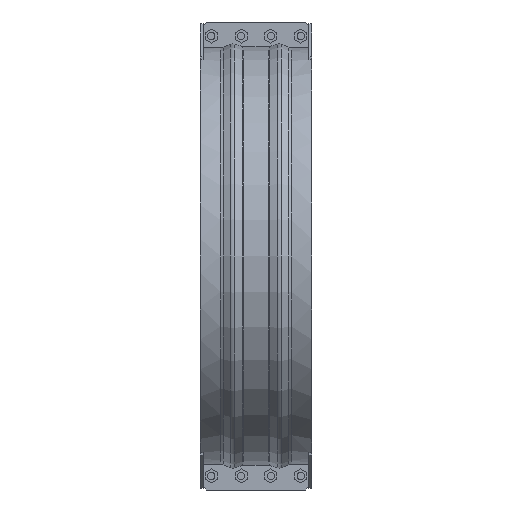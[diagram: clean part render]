
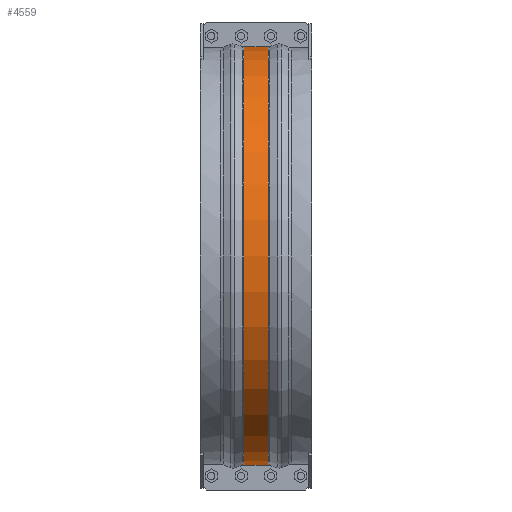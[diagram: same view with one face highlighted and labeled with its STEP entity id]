
A CAD part, front view. The second image highlights one B-rep face of the part: STEP entity #4559.
In plain terms, the highlighted cylindrical face has radius 701.977 mm (diameter 1403.95 mm), a partial arc.
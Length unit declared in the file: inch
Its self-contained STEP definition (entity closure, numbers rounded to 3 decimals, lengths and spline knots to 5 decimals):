
#414=FACE_OUTER_BOUND('',#671,.T.);
#671=EDGE_LOOP('',(#3465,#3466,#3467,#3468));
#1036=LINE('',#7017,#1485);
#1044=LINE('',#7149,#1493);
#1485=VECTOR('',#5630,0.3937);
#1493=VECTOR('',#5690,0.3937);
#1771=CIRCLE('',#4875,27.63689);
#1773=CIRCLE('',#4879,27.63689);
#2060=VERTEX_POINT('',#7009);
#2061=VERTEX_POINT('',#7016);
#2076=VERTEX_POINT('',#7134);
#2078=VERTEX_POINT('',#7147);
#2565=EDGE_CURVE('',#2061,#2060,#1036,.T.);
#2590=EDGE_CURVE('',#2076,#2061,#1771,.T.);
#2594=EDGE_CURVE('',#2078,#2060,#1773,.T.);
#2595=EDGE_CURVE('',#2078,#2076,#1044,.T.);
#3465=ORIENTED_EDGE('',*,*,#2565,.T.);
#3466=ORIENTED_EDGE('',*,*,#2594,.F.);
#3467=ORIENTED_EDGE('',*,*,#2595,.T.);
#3468=ORIENTED_EDGE('',*,*,#2590,.T.);
#4182=CYLINDRICAL_SURFACE('',#4878,27.63689);
#4559=ADVANCED_FACE('',(#414),#4182,.T.);
#4875=AXIS2_PLACEMENT_3D('',#7135,#5679,#5680);
#4878=AXIS2_PLACEMENT_3D('',#7146,#5686,#5687);
#4879=AXIS2_PLACEMENT_3D('',#7148,#5688,#5689);
#5630=DIRECTION('',(1.,0.,0.));
#5679=DIRECTION('center_axis',(1.,0.,0.));
#5680=DIRECTION('ref_axis',(0.,0.,-1.));
#5686=DIRECTION('center_axis',(1.,0.,0.));
#5687=DIRECTION('ref_axis',(0.,-1.,0.));
#5688=DIRECTION('center_axis',(1.,0.,0.));
#5689=DIRECTION('ref_axis',(0.,0.,-1.));
#5690=DIRECTION('',(-1.,0.,0.));
#7009=CARTESIAN_POINT('',(1.64101,-0.375,-27.63434));
#7016=CARTESIAN_POINT('',(-1.64101,-0.375,-27.63434));
#7017=CARTESIAN_POINT('',(0.,-0.375,-27.63434));
#7134=CARTESIAN_POINT('',(-1.64101,-0.375,27.63434));
#7135=CARTESIAN_POINT('Origin',(-1.64101,0.,0.));
#7146=CARTESIAN_POINT('Origin',(0.,0.,0.));
#7147=CARTESIAN_POINT('',(1.64101,-0.375,27.63434));
#7148=CARTESIAN_POINT('Origin',(1.64101,0.,0.));
#7149=CARTESIAN_POINT('',(0.,-0.375,27.63434));
